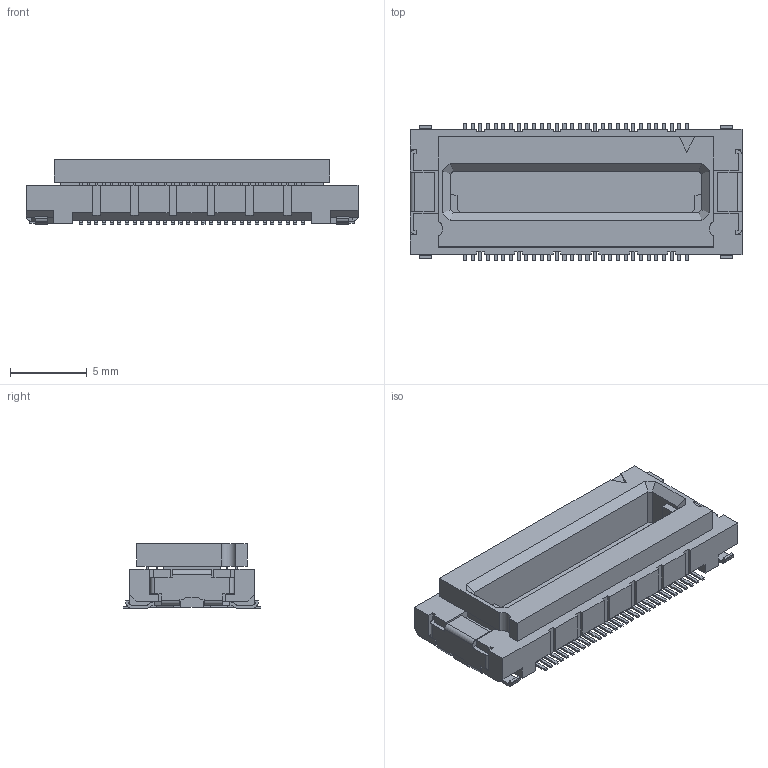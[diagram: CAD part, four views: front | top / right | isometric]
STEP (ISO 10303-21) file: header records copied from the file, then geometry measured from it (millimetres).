
FILE_DESCRIPTION(('Creo Elements/Direct Modeling STEP Export'),'2;1');
FILE_NAME('P39563_DY00-060S.stp','2017-08-10T14:20:28',(''),(''),'Creo Elements/Direct Modeling STEP processor for AP214 (Solid Model)','Creo Elements/Direct Modeling 19.0F 14-Feb-2017 (C) Parametric Technology GmbH','');
FILE_SCHEMA(('AUTOMOTIVE_DESIGN { 1 0 10303 214 1 1 1 1 }'));
Length unit declared in the file: millimetre
Products named in the file (2): DY00-060S
Assembly tree (1 placements, depth 2):
  DY00-060S
    DY00-060S
Bounding box: 21.7 x 9 x 4.2 mm (x, y, z)
Volume: 455.5 mm3; surface area: 980.4 mm2
Topology: 1 solids, 1 shells, 1937 faces, 5427 edges, 3614 vertices
Faces by surface type: plane 1652, cylinder 285
Entity records: 61698 total; most frequent: CARTESIAN_POINT 10894, ORIENTED_EDGE 10854, DIRECTION 9771, EDGE_CURVE 5427, VECTOR 4789, LINE 4789, VERTEX_POINT 3614, AXIS2_PLACEMENT_3D 2491
